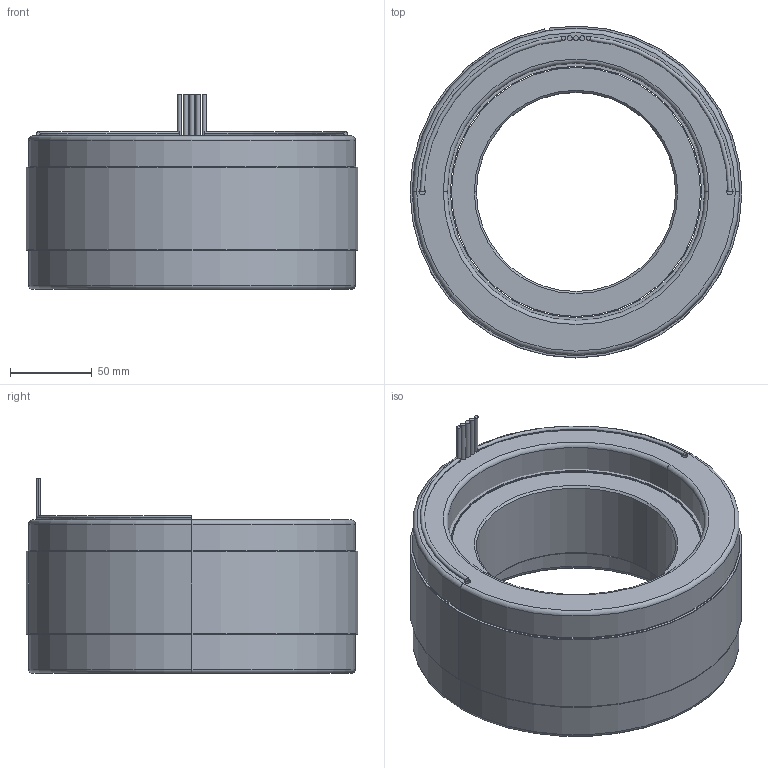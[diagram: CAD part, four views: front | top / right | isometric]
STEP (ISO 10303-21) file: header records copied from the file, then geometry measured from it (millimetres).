
FILE_DESCRIPTION (( 'STEP AP214' ), '1' );
FILE_NAME ('6100337-02.STEP', '2019-10-23T23:06:13', ( '' ), ( '' ), 'SwSTEP 2.0', 'SolidWorks 2016', '' );
FILE_SCHEMA (( 'AUTOMOTIVE_DESIGN' ));
Length unit declared in the file: millimetre
Products named in the file (11): 4450180-XX_4450180-02; 4150167-XX_4150167-02; 4600545-00; 4400090-00; 4500540-XX_4500540-02; COMP4500540-XX(COIL)_COMP4500540-02(COIL); 4250361-XX_4250361-02; 6100337-02
Assembly tree (10 placements, depth 4):
  6100337-02
    4250361-XX_4250361-02
      4150167-XX_4150167-02
    4500540-XX_4500540-02
      4450180-XX_4450180-02
        4450180-XX_4450180-02
        4400090-00
        4400090-00
        4600545-00
        4600545-00
      COMP4500540-XX(COIL)_COMP4500540-02(COIL)
Bounding box: 203.2 x 203.19 x 119.38 mm (x, y, z)
Volume: 2173386.4 mm3; surface area: 380405.4 mm2
Topology: 14 solids, 14 shells, 105 faces, 213 edges, 138 vertices
Faces by surface type: cylinder 59, plane 30, torus 12, cone 4
Entity records: 3320 total; most frequent: DIRECTION 605, CARTESIAN_POINT 472, ORIENTED_EDGE 426, AXIS2_PLACEMENT_3D 271, EDGE_CURVE 213, CIRCLE 150, VERTEX_POINT 138, EDGE_LOOP 121
